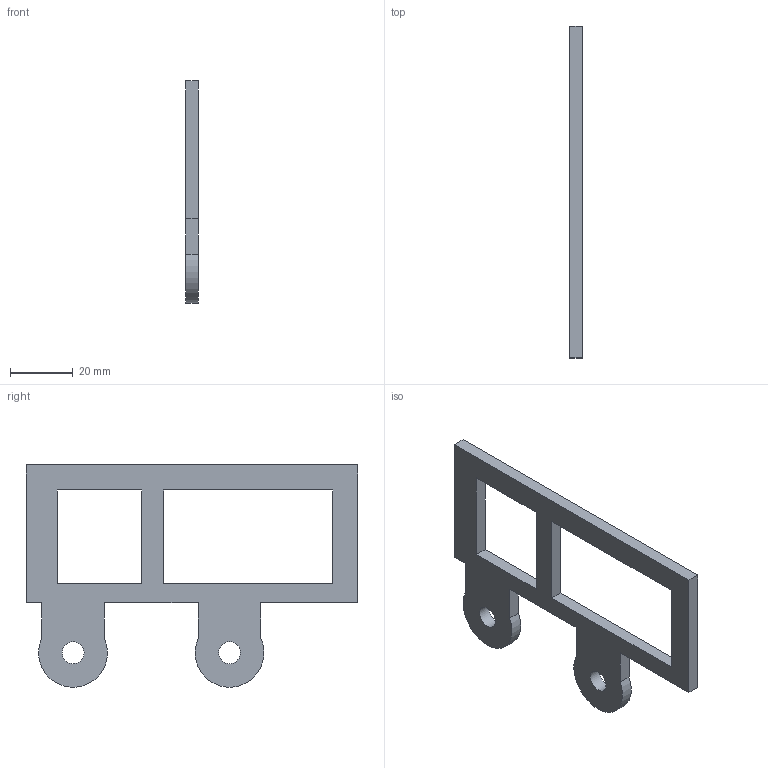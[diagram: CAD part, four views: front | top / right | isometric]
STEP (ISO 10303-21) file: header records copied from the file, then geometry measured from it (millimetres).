
FILE_DESCRIPTION(('Open CASCADE Model'),'2;1');
FILE_NAME('Open CASCADE Shape Model','2026-10-15T19:48:39',('Author'),( 'Open CASCADE'),'Open CASCADE STEP processor 7.9','Open CASCADE 7.9' ,'Unknown');
FILE_SCHEMA(('AUTOMOTIVE_DESIGN { 1 0 10303 214 1 1 1 1 }'));
Length unit declared in the file: millimetre
Products named in the file (1): Open CASCADE STEP translator 7.9 7
Bounding box: 4 x 106 x 70.96 mm (x, y, z)
Volume: 12758 mm3; surface area: 9257.7 mm2
Topology: 1 solids, 1 shells, 24 faces, 66 edges, 44 vertices
Faces by surface type: plane 20, cylinder 4
Full cylindrical faces by diameter (mm): 7 x2
Entity records: 1600 total; most frequent: CARTESIAN_POINT 327, DIRECTION 206, LINE 134, VECTOR 134, ORIENTED_EDGE 132, PCURVE 132, DEFINITIONAL_REPRESENTATION 132, EDGE_CURVE 66
